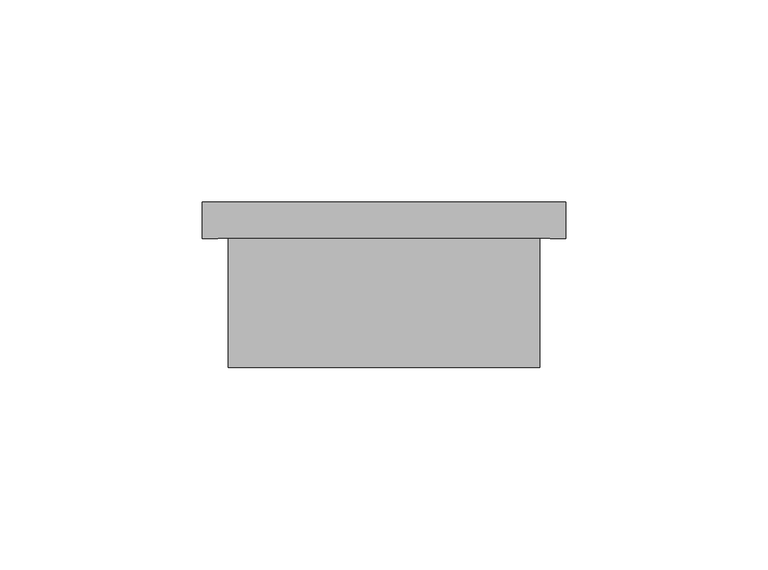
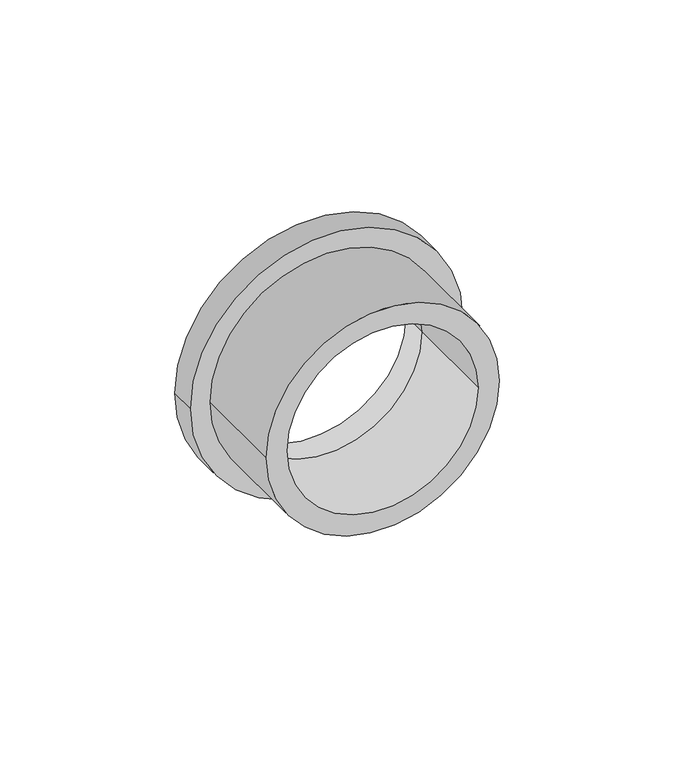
"""IFC4 building model written with IfcOpenShell, lengths in millimetres: pipe fitting geometry, 01051020 : Colarinho."""

from ifc_helpers import new_model, si_unit, point, frame, origin, origin_2d, place, context, project, spatial, circle_curve, trimmed, segment, composite_curve, outline, extrude, source, transform, mapped, element, save


def pipe_fitting_38e76301(model_context):
    return source(origin(), model_context, "Body", "SweptSolid", [
        extrude(outline(composite_curve([segment(trimmed(circle_curve(origin_2d(), 38.5), [point((0.0, -38.5))], [point((0.0, 38.5))], False, "CARTESIAN"), True, "CONTINUOUS"), segment(trimmed(circle_curve(origin_2d(), 38.5), [point((0.0, 38.5))], [point((0.0, -38.5))], False, "CARTESIAN"), True, "CONTINUOUS")], self_intersect=False), holes=[composite_curve([segment(trimmed(circle_curve(origin_2d(), 31.5), [point((0.0, -31.5))], [point((0.0, 31.5))], True, "CARTESIAN"), True, "CONTINUOUS"), segment(trimmed(circle_curve(origin_2d(), 31.5), [point((0.0, 31.5))], [point((0.0, -31.5))], True, "CARTESIAN"), True, "CONTINUOUS")], self_intersect=False)]), frame((0.0, -32.0, 0.0), z_axis=(0.0, 1.0, 0.0), x_axis=(0.0, 0.0, 1.0)), (0.0, 0.0, 1.0), 32.0),
        extrude(outline(composite_curve([segment(trimmed(circle_curve(origin_2d(), 45.0), [point((0.0, -45.0))], [point((0.0, 45.0))], False, "CARTESIAN"), True, "CONTINUOUS"), segment(trimmed(circle_curve(origin_2d(), 45.0), [point((0.0, 45.0))], [point((0.0, -45.0))], False, "CARTESIAN"), True, "CONTINUOUS")], self_intersect=False), holes=[composite_curve([segment(trimmed(circle_curve(origin_2d(), 31.5), [point((0.0, -31.5))], [point((0.0, 31.5))], True, "CARTESIAN"), True, "CONTINUOUS"), segment(trimmed(circle_curve(origin_2d(), 31.5), [point((0.0, 31.5))], [point((0.0, -31.5))], True, "CARTESIAN"), True, "CONTINUOUS")], self_intersect=False)]), frame((0.0, 0.0, 0.0), z_axis=(0.0, 1.0, 0.0), x_axis=(0.0, 0.0, 1.0)), (0.0, 0.0, 1.0), 9.0),
    ])


if __name__ == "__main__":
    model = new_model("IFC4")
    model_context = context("Model", 3, world=origin())
    ifc_project = project(units=[si_unit("LENGTHUNIT", "METRE", prefix="MILLI")], contexts=[model_context])
    site = spatial("IfcSite", under=ifc_project)
    building = spatial("IfcBuilding", under=site)
    placement = place(None, origin())
    pipe_fitting_shape = pipe_fitting_38e76301(model_context)
    element("IfcPipeFitting", 1, ObjectType="01051020 : Colarinho", at=placement, inside=building, context=model_context, shape_type="MappedRepresentation", body=[
        mapped(pipe_fitting_shape, transform((0.0, 0.0, 0.0), x_axis=(1.0, 0.0, 0.0), y_axis=(0.0, 1.0, 0.0), z_axis=(0.0, 0.0, 1.0))),
    ])
    save(model, "model.ifc")
